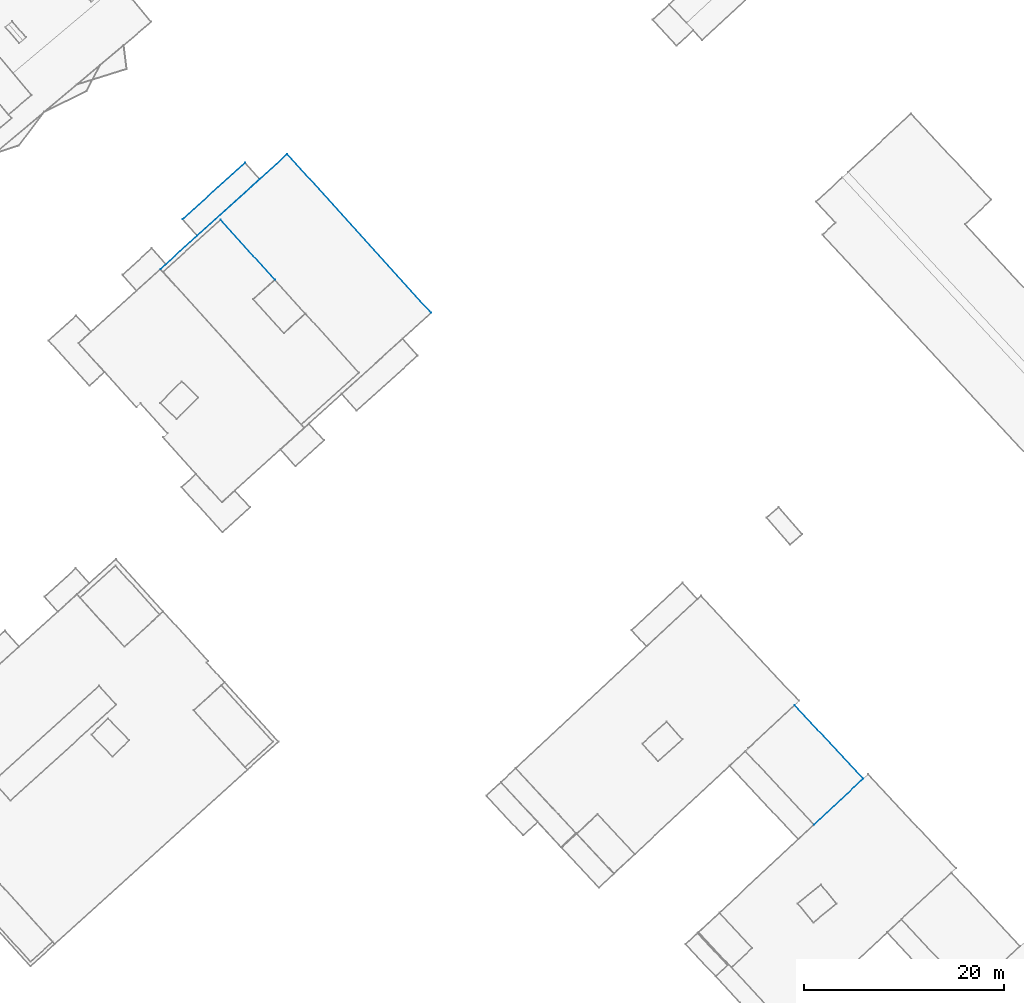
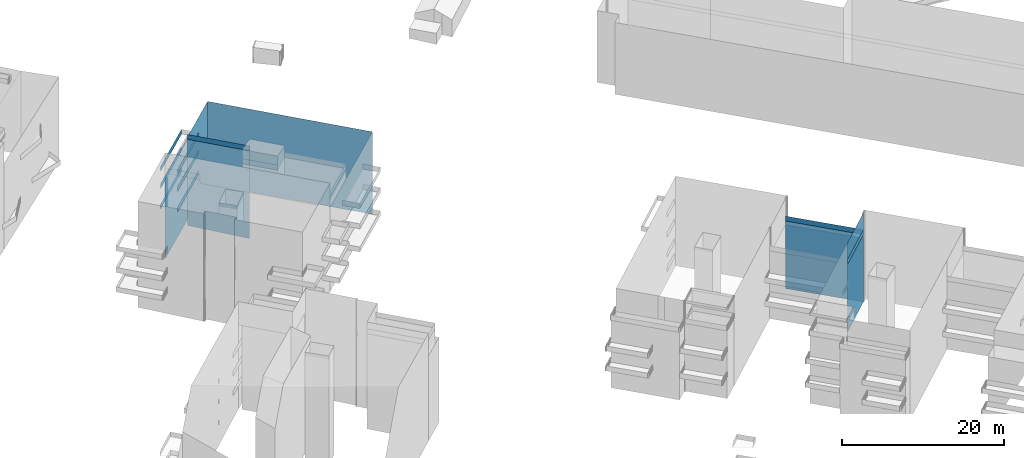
# Not in any storey, part 29 of 136: 25 walls.
"""IFC2X3 building model written with IfcOpenShell, lengths in metres."""

from ifc_helpers import new_model, entity, si_unit, converted_unit, frame, origin, place, context, subcontext, project, spatial, face_set, surface_model, element, save


model = new_model("IFC2X3")

# Units and contexts
model_context = context("Model", 3, precision=1e-05, world=origin())
body_context = subcontext(model_context, "Body", "Model", "MODEL_VIEW")
ifc_project = project(units=[converted_unit("PLANEANGLEUNIT", "DEGREE", entity("IfcRatioMeasure", 0.0174532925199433), si_unit("PLANEANGLEUNIT", "RADIAN"), dimensions=[0, 0, 0, 0, 0, 0, 0]), si_unit("AREAUNIT", "SQUARE_METRE"), si_unit("LENGTHUNIT", "METRE")], contexts=[model_context])

# Site, building
site_placement = place(None, origin())
site = spatial("IfcSite", under=ifc_project, at=site_placement, Name="_site", CompositionType="ELEMENT")
building_1_placement = place(site_placement, origin())
building_1 = spatial("IfcBuilding", under=site, at=building_1_placement, Name="_building", CompositionType="ELEMENT")

# Walls
wall_1_placement = place(building_1_placement, origin())
element("IfcWall", 1, at=wall_1_placement, inside=building_1, Name="Wall", context=body_context, shape_type="SurfaceModel", body=[
    surface_model("IfcFaceBasedSurfaceModel", [(134.12, 4.101, 48.33), (140.97, -3.229, 48.33), (140.97, -3.229, 38.196), (134.12, 4.101, 38.159)], [face_set([[[0, 1, 2, 3]]])]),
])
wall_2_placement = place(building_1_placement, origin())
element("IfcWall", 2, at=wall_2_placement, inside=building_1, Name="Wall", context=body_context, shape_type="SurfaceModel", body=[
    surface_model("IfcFaceBasedSurfaceModel", [(134.12, 4.101, 47.82), (140.97, -3.229, 47.82), (140.97, -3.229, 38.196), (134.12, 4.101, 38.159)], [face_set([[[0, 1, 2, 3]]])]),
])
for number, where, name in (
    (3, (0.0, 0.0, 0.0), "Wall"),
    (4, (0.0, 0.0, 0.0), "Wall"),
):
    element("IfcWall", number, at=place(building_1_placement, frame(where)), inside=building_1, Name=name, context=body_context, shape_type="SurfaceModel", body=[
        surface_model("IfcFaceBasedSurfaceModel", [(134.12, 4.101, 48.33), (140.97, -3.229, 48.33), (140.97, -3.229, 49.08), (134.12, 4.101, 49.08)], [face_set([[[0, 1, 2, 3]]])]),
    ])

# Building
building_2_placement = place(site_placement, origin())
building_2 = spatial("IfcBuilding", under=site, at=building_2_placement, Name="_building", CompositionType="ELEMENT")

# Walls
wall_3_placement = place(building_2_placement, origin())
element("IfcWall", 5, at=wall_3_placement, inside=building_2, Name="Wall", context=body_context, shape_type="SurfaceModel", body=[
    surface_model("IfcFaceBasedSurfaceModel", [(136.06, -7.81, 51.59), (140.97, -3.229, 51.59), (140.97, -3.229, 47.82), (136.06, -7.81, 47.82)], [face_set([[[0, 1, 2, 3]]])]),
])
for number, where, name in (
    (6, (0.0, 0.0, 0.0), "Wall"),
    (7, (0.0, 0.0, 0.0), "Wall"),
):
    element("IfcWall", number, at=place(building_2_placement, frame(where)), inside=building_2, Name=name, context=body_context, shape_type="SurfaceModel", body=[
        surface_model("IfcFaceBasedSurfaceModel", [(140.97, -3.229, 48.33), (136.06, -7.81, 48.33), (136.06, -7.81, 49.08), (140.97, -3.229, 49.08)], [face_set([[[0, 1, 2, 3]]])]),
    ])
wall_4_placement = place(building_2_placement, origin())
element("IfcWall", 8, at=wall_4_placement, inside=building_2, Name="Wall", context=body_context, shape_type="SurfaceModel", body=[
    surface_model("IfcFaceBasedSurfaceModel", [(140.97, -3.229, 48.33), (136.06, -7.81, 48.33), (136.06, -7.81, 38.131), (140.97, -3.229, 38.196)], [face_set([[[0, 1, 2, 3]]])]),
])

# Building
building_3_placement = place(site_placement, origin())
building_3 = spatial("IfcBuilding", under=site, at=building_3_placement, Name="_building", CompositionType="ELEMENT")

# Walls
for number, where, name in (
    (9, (0.0, 0.0, 0.0), "Wall"),
    (10, (0.0, 0.0, 0.0), "Wall"),
):
    element("IfcWall", number, at=place(building_3_placement, frame(where)), inside=building_3, Name=name, context=body_context, shape_type="SurfaceModel", body=[
        surface_model("IfcFaceBasedSurfaceModel", [(76.85, 52.521, 51.32), (82.27, 46.54, 51.32), (82.27, 46.54, 52.07), (76.85, 52.521, 52.07)], [face_set([[[0, 1, 2, 3]]])]),
    ])
wall_5_placement = place(building_3_placement, origin())
element("IfcWall", 11, at=wall_5_placement, inside=building_3, Name="Wall", context=body_context, shape_type="SurfaceModel", body=[
    surface_model("IfcFaceBasedSurfaceModel", [(80.76, 56.58, 47.79), (74.53, 50.94, 47.79), (74.53, 50.94, 48.54), (80.76, 56.58, 48.54)], [face_set([[[0, 1, 2, 3]]])]),
])
wall_6_placement = place(building_3_placement, origin())
element("IfcWall", 12, at=wall_6_placement, inside=building_3, Name="Wall", context=body_context, shape_type="SurfaceModel", body=[
    surface_model("IfcFaceBasedSurfaceModel", [(73.06, 52.57, 47.79), (79.29, 58.21, 47.79), (79.29, 58.21, 48.54), (73.06, 52.57, 48.54)], [face_set([[[0, 1, 2, 3]]])]),
])
wall_7_placement = place(building_3_placement, origin())
element("IfcWall", 13, at=wall_7_placement, inside=building_3, Name="Wall", context=body_context, shape_type="SurfaceModel", body=[
    surface_model("IfcFaceBasedSurfaceModel", [(80.76, 56.58, 47.79), (74.53, 50.94, 47.79), (74.53, 50.94, 48.54), (80.76, 56.58, 48.54)], [face_set([[[0, 1, 2, 3]]])]),
])
wall_8_placement = place(building_3_placement, origin())
element("IfcWall", 14, at=wall_8_placement, inside=building_3, Name="Wall", context=body_context, shape_type="SurfaceModel", body=[
    surface_model("IfcFaceBasedSurfaceModel", [(73.06, 52.57, 47.79), (79.29, 58.21, 47.79), (79.29, 58.21, 48.54), (73.06, 52.57, 48.54)], [face_set([[[0, 1, 2, 3]]])]),
])
wall_9_placement = place(building_3_placement, origin())
element("IfcWall", 15, at=wall_9_placement, inside=building_3, Name="Wall", context=body_context, shape_type="SurfaceModel", body=[
    surface_model("IfcFaceBasedSurfaceModel", [(76.85, 52.521, 51.32), (82.27, 46.54, 51.32), (82.27, 46.54, 38.106), (76.85, 52.521, 38.365)], [face_set([[[0, 1, 2, 3]]])]),
])
wall_10_placement = place(building_3_placement, origin())
element("IfcWall", 16, at=wall_10_placement, inside=building_3, Name="Wall", context=body_context, shape_type="SurfaceModel", body=[
    surface_model("IfcFaceBasedSurfaceModel", [(80.76, 56.58, 42.09), (74.53, 50.94, 42.09), (74.53, 50.94, 42.84), (80.76, 56.58, 42.84)], [face_set([[[0, 1, 2, 3]]])]),
])
wall_11_placement = place(building_3_placement, origin())
element("IfcWall", 17, at=wall_11_placement, inside=building_3, Name="Wall", context=body_context, shape_type="SurfaceModel", body=[
    surface_model("IfcFaceBasedSurfaceModel", [(73.06, 52.57, 42.09), (79.29, 58.21, 42.09), (79.29, 58.21, 42.84), (73.06, 52.57, 42.84)], [face_set([[[0, 1, 2, 3]]])]),
])
wall_12_placement = place(building_3_placement, origin())
element("IfcWall", 18, at=wall_12_placement, inside=building_3, Name="Wall", context=body_context, shape_type="SurfaceModel", body=[
    surface_model("IfcFaceBasedSurfaceModel", [(80.76, 56.58, 42.09), (74.53, 50.94, 42.09), (74.53, 50.94, 42.84), (80.76, 56.58, 42.84)], [face_set([[[0, 1, 2, 3]]])]),
])
wall_13_placement = place(building_3_placement, origin())
element("IfcWall", 19, at=wall_13_placement, inside=building_3, Name="Wall", context=body_context, shape_type="SurfaceModel", body=[
    surface_model("IfcFaceBasedSurfaceModel", [(73.06, 52.57, 42.09), (79.29, 58.21, 42.09), (79.29, 58.21, 42.84), (73.06, 52.57, 42.84)], [face_set([[[0, 1, 2, 3]]])]),
])
wall_14_placement = place(building_3_placement, origin())
element("IfcWall", 20, at=wall_14_placement, inside=building_3, Name="Wall", context=body_context, shape_type="SurfaceModel", body=[
    surface_model("IfcFaceBasedSurfaceModel", [(83.51, 59.08, 50.74), (97.86, 43.23, 50.74), (97.86, 43.23, 38.313), (83.51, 59.08, 38.229)], [face_set([[[0, 1, 2, 3]]])]),
])
wall_15_placement = place(building_3_placement, origin())
element("IfcWall", 21, at=wall_15_placement, inside=building_3, Name="Wall", context=body_context, shape_type="SurfaceModel", body=[
    surface_model("IfcFaceBasedSurfaceModel", [(70.85, 47.61, 50.74), (83.51, 59.08, 50.74), (83.51, 59.08, 38.229), (70.85, 47.61, 38.409)], [face_set([[[0, 1, 2, 3]]])]),
])
wall_16_placement = place(building_3_placement, origin())
element("IfcWall", 22, at=wall_16_placement, inside=building_3, Name="Wall", context=body_context, shape_type="SurfaceModel", body=[
    surface_model("IfcFaceBasedSurfaceModel", [(80.76, 56.58, 45.18), (74.53, 50.94, 45.18), (74.53, 50.94, 45.93), (80.76, 56.58, 45.93)], [face_set([[[0, 1, 2, 3]]])]),
])
wall_17_placement = place(building_3_placement, origin())
element("IfcWall", 23, at=wall_17_placement, inside=building_3, Name="Wall", context=body_context, shape_type="SurfaceModel", body=[
    surface_model("IfcFaceBasedSurfaceModel", [(73.06, 52.57, 45.18), (79.29, 58.21, 45.18), (79.29, 58.21, 45.93), (73.06, 52.57, 45.93)], [face_set([[[0, 1, 2, 3]]])]),
])
wall_18_placement = place(building_3_placement, origin())
element("IfcWall", 24, at=wall_18_placement, inside=building_3, Name="Wall", context=body_context, shape_type="SurfaceModel", body=[
    surface_model("IfcFaceBasedSurfaceModel", [(80.76, 56.58, 45.18), (74.53, 50.94, 45.18), (74.53, 50.94, 45.93), (80.76, 56.58, 45.93)], [face_set([[[0, 1, 2, 3]]])]),
])
wall_19_placement = place(building_3_placement, origin())
element("IfcWall", 25, at=wall_19_placement, inside=building_3, Name="Wall", context=body_context, shape_type="SurfaceModel", body=[
    surface_model("IfcFaceBasedSurfaceModel", [(73.06, 52.57, 45.18), (79.29, 58.21, 45.18), (79.29, 58.21, 45.93), (73.06, 52.57, 45.93)], [face_set([[[0, 1, 2, 3]]])]),
])

save(model, "model.ifc")
